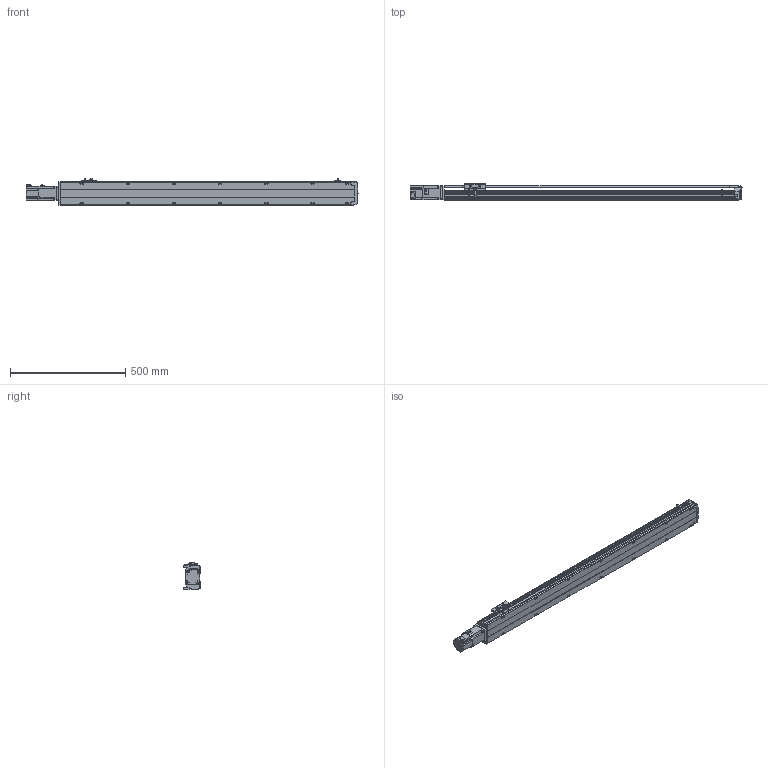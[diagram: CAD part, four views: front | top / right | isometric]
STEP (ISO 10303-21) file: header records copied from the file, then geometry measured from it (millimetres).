
FILE_DESCRIPTION( ( 'STEP AP214' ), '1' );
FILE_NAME( 'x:/temp/worker_13/temp/exporttempdir_3252_151_rE1tW/format_0/PSS120-L10-S1050-BC-T40-C1-N(0).stp', '2022-06-02T00:33:53', ( 'License CC BY-ND 4.0' ), ( 'CADENAS' ), ' ', 'PARTsolutions', ' ' );
FILE_SCHEMA( ( 'AUTOMOTIVE_DESIGN { 1 0 10303 214 1 1 1 1 }' ) );
Length unit declared in the file: millimetre
Products named in the file (8): PSS120-L10-S1050-BC-T40-C1-N(0); _PSS120-S1050-BC-C1-N_body; _PSS120-N_Q; _PSS120-BC-C1-N_sl; _PSS120-N_sensor; _PSS120BC-N_h; _T40-p1; _PSS120-S1050-BC-N_S
Assembly tree (9 placements, depth 2):
  PSS120-L10-S1050-BC-T40-C1-N(0)
    _PSS120-S1050-BC-C1-N_body
    _PSS120-N_Q
    _PSS120-BC-C1-N_sl
    _PSS120-N_sensor  x3
    _PSS120BC-N_h
    _T40-p1
    _PSS120-S1050-BC-N_S
Bounding box: 1438.7 x 70 x 117.7 mm (x, y, z)
Volume: 4553432.4 mm3; surface area: 808949.4 mm2
Topology: 9 solids, 9 shells, 849 faces, 2264 edges, 1500 vertices
Faces by surface type: plane 565, cylinder 258, cone 26
Full cylindrical faces by diameter (mm): 2.8 x3, 4 x4, 4.134 x18, 4.2 x4, 4.4 x2, 4.5 x4, 4.6 x3, 4.917 x4, 5 x6, 5.5 x21, 7 x2, 8 x8, 8.5 x18, 14 x1, 28 x1, 32 x1, 50 x1
Entity records: 29093 total; most frequent: CARTESIAN_POINT 4514, DIRECTION 3821, ORIENTED_EDGE 3670, EDGE_CURVE 1835, VERTEX_POINT 1286, AXIS2_PLACEMENT_3D 1279, LINE 1263, VECTOR 1263
